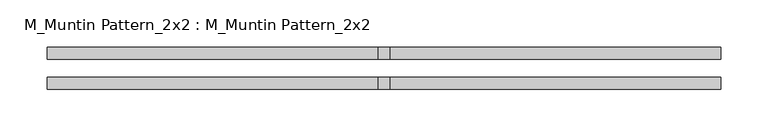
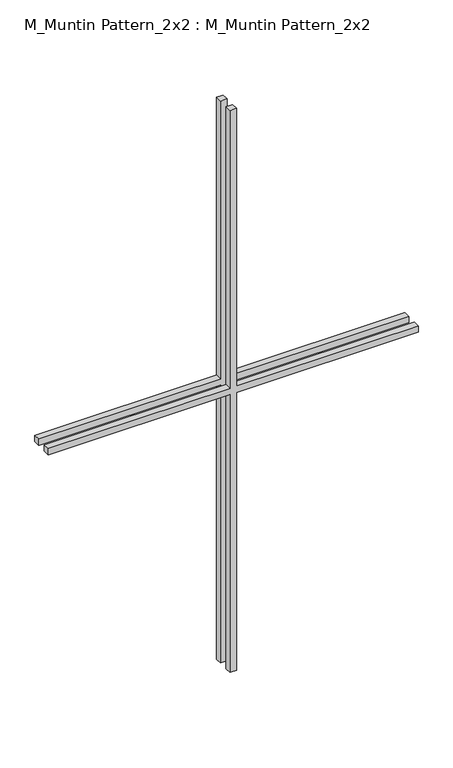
"""IFC4 building model written with IfcOpenShell, lengths in millimetres: proxy geometry, M_Muntin Pattern_2x2 : M_Muntin Pattern_2x2."""

from ifc_helpers import new_model, si_unit, frame, origin, place, context, project, spatial, polyline, outline, extrude, source, transform, mapped, element, save


def m_muntin_pattern_2x2_m_muntin_pattern_2x2_db84ca2f(model_context):
    return source(origin(), model_context, "Body", "SweptSolid", [
        extrude(outline(polyline([(579.0, -6.35), (579.0, -356.7375), (566.3, -356.7375), (566.3, -6.35), (0.0, -6.35), (0.0, 6.35), (566.3, 6.35), (566.3, 356.7375), (579.0, 356.7375), (579.0, 6.35), (1145.3, 6.35), (1145.3, -6.35), (579.0, -6.35)])), frame((0.0, -22.225, 0.0), z_axis=(0.0, 1.0, 0.0), x_axis=(0.0, 0.0, 1.0)), (0.0, 0.0, 1.0), 12.7),
        extrude(outline(polyline([(579.0, -6.35), (579.0, -356.7375), (566.3, -356.7375), (566.3, -6.35), (0.0, -6.35), (0.0, 6.35), (566.3, 6.35), (566.3, 356.7375), (579.0, 356.7375), (579.0, 6.35), (1145.3, 6.35), (1145.3, -6.35), (579.0, -6.35)])), frame((0.0, 9.525, 0.0), z_axis=(0.0, 1.0, 0.0), x_axis=(0.0, 0.0, 1.0)), (0.0, 0.0, 1.0), 12.7),
    ])


if __name__ == "__main__":
    model = new_model("IFC4")
    model_context = context("Model", 3, world=origin())
    ifc_project = project(units=[si_unit("LENGTHUNIT", "METRE", prefix="MILLI")], contexts=[model_context])
    site = spatial("IfcSite", under=ifc_project)
    building = spatial("IfcBuilding", under=site)
    placement = place(None, origin())
    m_muntin_pattern_2x2_m_muntin_pattern_2x2_shape = m_muntin_pattern_2x2_m_muntin_pattern_2x2_db84ca2f(model_context)
    element("IfcBuildingElementProxy", 1, Name="M_Muntin Pattern_2x2 : M_Muntin Pattern_2x2", ObjectType="M_Muntin Pattern_2x2 : M_Muntin Pattern_2x2", at=placement, inside=building, context=model_context, shape_type="MappedRepresentation", body=[
        mapped(m_muntin_pattern_2x2_m_muntin_pattern_2x2_shape, transform((0.0, 0.0, 0.0), x_axis=(1.0, 0.0, 0.0), y_axis=(0.0, 1.0, 0.0), z_axis=(0.0, 0.0, 1.0))),
    ])
    save(model, "model.ifc")
